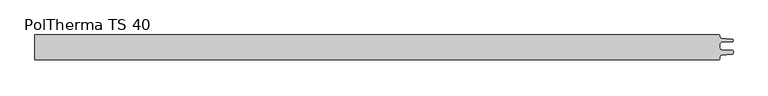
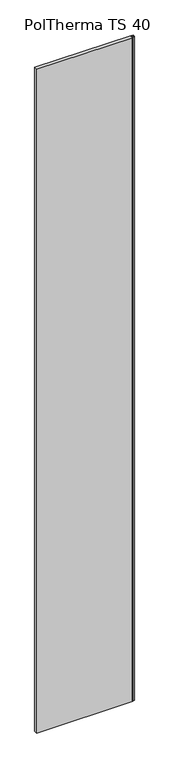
"""IFC4 building model written with IfcOpenShell, lengths in millimetres: plate geometry, Europanels_Poltherma TS_Vt : PolTherma TS 40."""

import ifcopenshell
import ifcopenshell.guid

model = None  # the IFC model being written
_history = None  # IfcOwnerHistory: only IFC2X3 demands one
_inside = {}  # id of a spatial element -> (the spatial element, [elements in it])
_under = {}  # id of a project, library or spatial element -> (it, [spatial elements below it])
_declared = {}  # id of a project -> (the project, [libraries it declares])
_typed = {}  # id of a type object -> (the type object, [elements of that type])
_made_of = {}  # id of a material, layer set ... -> (it, [elements and type objects made of it])


def new_model(schema):
    """Start an empty IFC model of exactly this schema.

    Asked for "IFC4X3", IfcOpenShell would pick the latest addendum, in which some entities
    have other attributes; the version numbers below select the first issue.
    IFC2X3 requires an IfcOwnerHistory on every rooted entity: one is made here for all.
    """
    global model, _history
    if schema == "IFC4X3":
        model = ifcopenshell.file(schema_version=(4, 3, 0, 0))
    else:
        model = ifcopenshell.file(schema=schema)
    _inside.clear()
    _under.clear()
    _declared.clear()
    _typed.clear()
    _made_of.clear()
    _history = None
    if model.schema == "IFC2X3":
        org = make("IfcOrganization", Name="unknown")
        user = make(
            "IfcPersonAndOrganization",
            ThePerson=make("IfcPerson", FamilyName="unknown"),
            TheOrganization=org,
        )
        app = make(
            "IfcApplication",
            ApplicationDeveloper=org,
            Version="unknown",
            ApplicationFullName="unknown",
            ApplicationIdentifier="unknown",
        )
        _history = make(
            "IfcOwnerHistory",
            OwningUser=user,
            OwningApplication=app,
            ChangeAction="ADDED",
            CreationDate=0,
        )
    return model


def make(cls, **values):
    """One entity of the class cls with the attributes given. An attribute that is None is left unset."""
    return model.create_entity(
        cls, **{name: value for name, value in values.items() if value is not None}
    )


def rooted(cls, **values):
    """An entity with a GlobalId (a new one), such as an element, a storey or a relation."""
    return make(cls, GlobalId=ifcopenshell.guid.new(), OwnerHistory=_history, **values)


def si_unit(unit_type, name, prefix=None):
    """IfcSIUnit, for example si_unit("LENGTHUNIT", "METRE", prefix="MILLI")."""
    return make("IfcSIUnit", UnitType=unit_type, Prefix=prefix, Name=name)


def assignment(units):
    """IfcUnitAssignment: the units of a project."""
    return None if units is None else make("IfcUnitAssignment", Units=units)


def point(xyz):
    """IfcCartesianPoint."""
    return None if xyz is None else make("IfcCartesianPoint", Coordinates=xyz)


def direction(xyz):
    """IfcDirection."""
    return None if xyz is None else make("IfcDirection", DirectionRatios=xyz)


def frame(location, z_axis=None, x_axis=None):
    """IfcAxis2Placement3D, a coordinate frame: its origin and axes. An axis left out is left unset."""
    return make(
        "IfcAxis2Placement3D",
        Location=point(location),
        Axis=direction(z_axis),
        RefDirection=direction(x_axis),
    )


def frame_2d(location, x_axis=None):
    """IfcAxis2Placement2D, a coordinate frame in the plane: its origin and x axis."""
    return make(
        "IfcAxis2Placement2D", Location=point(location), RefDirection=direction(x_axis)
    )


def origin():
    """The frame at (0, 0, 0) with its axes left unset."""
    return frame((0.0, 0.0, 0.0))


def origin_with_axes():
    """The frame at (0, 0, 0) with the z axis (0, 0, 1) and the x axis (1, 0, 0) written out."""
    return frame((0.0, 0.0, 0.0), z_axis=(0.0, 0.0, 1.0), x_axis=(1.0, 0.0, 0.0))


def place(relative_to, where):
    """IfcLocalPlacement: puts the frame where relative to a parent placement (None: the world)."""
    return make(
        "IfcLocalPlacement", PlacementRelTo=relative_to, RelativePlacement=where
    )


def context(
    kind, dimensions, precision=None, world=None, true_north=None, identifier=None
):
    """IfcGeometricRepresentationContext, for example the 3D "Model" context."""
    return make(
        "IfcGeometricRepresentationContext",
        ContextIdentifier=identifier,
        ContextType=kind,
        CoordinateSpaceDimension=dimensions,
        Precision=precision,
        WorldCoordinateSystem=world,
        TrueNorth=true_north,
    )


def project(units=None, contexts=None):
    """IfcProject with its units and contexts."""
    return rooted(
        "IfcProject",
        Name="project",
        RepresentationContexts=contexts,
        UnitsInContext=assignment(units),
    )


def spatial(cls, under=None, at=None, **own):
    """A site, building, storey or space (cls), placed at a placement, below another one or the project."""
    s = rooted(cls, ObjectPlacement=at, **own)
    if under is not None:
        _under.setdefault(under.id(), (under, []))[1].append(s)
    return s


def polyline(points):
    """IfcPolyline through the points."""
    return make("IfcPolyline", Points=[point(p) for p in points])


def circle_curve(where, radius):
    """IfcCircle in the frame where."""
    return make("IfcCircle", Position=where, Radius=radius)


def trimmed(basis, trim1, trim2, sense, master):
    """IfcTrimmedCurve: the piece of a basis curve between two trims."""
    return make(
        "IfcTrimmedCurve",
        BasisCurve=basis,
        Trim1=trim1,
        Trim2=trim2,
        SenseAgreement=sense,
        MasterRepresentation=master,
    )


def segment(curve, same_sense, transition):
    """IfcCompositeCurveSegment."""
    return make(
        "IfcCompositeCurveSegment",
        Transition=transition,
        SameSense=same_sense,
        ParentCurve=curve,
    )


def composite_curve(segments, self_intersect=None):
    """IfcCompositeCurve: segments joined end to end."""
    return make("IfcCompositeCurve", Segments=segments, SelfIntersect=self_intersect)


def outline(outer, holes=None, kind="AREA"):
    """IfcArbitraryClosedProfileDef: a profile drawn as a closed curve; with holes, ...WithVoids."""
    if holes is None:
        return make("IfcArbitraryClosedProfileDef", ProfileType=kind, OuterCurve=outer)
    return make(
        "IfcArbitraryProfileDefWithVoids",
        ProfileType=kind,
        OuterCurve=outer,
        InnerCurves=holes,
    )


def extrude(swept, where, along, depth):
    """IfcExtrudedAreaSolid: the profile swept, set in the frame where, extruded along a direction by depth."""
    return make(
        "IfcExtrudedAreaSolid",
        SweptArea=swept,
        Position=where,
        ExtrudedDirection=direction(along),
        Depth=depth,
    )


def shape(context_of_items, identifier, shape_type, items):
    """IfcShapeRepresentation: the items that make up one representation, for example the "Body"."""
    return make(
        "IfcShapeRepresentation",
        ContextOfItems=context_of_items,
        RepresentationIdentifier=identifier,
        RepresentationType=shape_type,
        Items=items,
    )


def source(mapping_origin, context_of_items, identifier, shape_type, items):
    """IfcRepresentationMap: a shape defined once, which mapped items show again and again."""
    return make(
        "IfcRepresentationMap",
        MappingOrigin=mapping_origin,
        MappedRepresentation=shape(context_of_items, identifier, shape_type, items),
    )


def transform(
    local_origin,
    x_axis=None,
    y_axis=None,
    z_axis=None,
    scale=None,
    scale2=None,
    scale3=None,
    uniform=True,
):
    """IfcCartesianTransformationOperator3D, or its non-uniform kind. x_axis, y_axis, z_axis: its Axis1, 2, 3."""
    if uniform:
        return make(
            "IfcCartesianTransformationOperator3D",
            Axis1=direction(x_axis),
            Axis2=direction(y_axis),
            LocalOrigin=point(local_origin),
            Scale=scale,
            Axis3=direction(z_axis),
        )
    return make(
        "IfcCartesianTransformationOperator3DnonUniform",
        Axis1=direction(x_axis),
        Axis2=direction(y_axis),
        LocalOrigin=point(local_origin),
        Scale=scale,
        Axis3=direction(z_axis),
        Scale2=scale2,
        Scale3=scale3,
    )


def mapped(mapping_source, mapping_target):
    """IfcMappedItem: shows the shape of a source again, moved by a transform."""
    return make(
        "IfcMappedItem", MappingSource=mapping_source, MappingTarget=mapping_target
    )


def made_of(thing, what):
    """Note that an element or type object is made of a material, layer set ...; save() writes the relation."""
    if what is not None:
        _made_of.setdefault(what.id(), (what, []))[1].append(thing)
    return thing


def element(
    cls,
    number,
    at=None,
    inside=None,
    cuts=None,
    type_object=None,
    material=None,
    context=None,
    identifier="Body",
    shape_type=None,
    held_by="IfcProductDefinitionShape",
    body=None,
    shapes=None,
    **own,
):
    """One element of the class cls, such as IfcWall. Its Tag is "e" and its number.

    at: its placement. inside: the storey or other place that contains it. cuts: it is an
    opening in that element (IfcRelVoidsElement). A single representation is given by context,
    identifier, shape_type and body (its items); several are given by shapes. held_by: the class
    of the entity that holds the representations. save() writes the other relations.
    """
    e = rooted(cls, Tag="e%d" % number, ObjectPlacement=at, **own)
    if body is not None:
        shapes = [shape(context, identifier, shape_type, body)]
    if shapes is not None:
        e.Representation = make(held_by, Representations=shapes)
    if inside is not None:
        _inside.setdefault(inside.id(), (inside, []))[1].append(e)
    if cuts is not None:
        rooted(
            "IfcRelVoidsElement", RelatingBuildingElement=cuts, RelatedOpeningElement=e
        )
    if type_object is not None:
        _typed.setdefault(type_object.id(), (type_object, []))[1].append(e)
    return made_of(e, material)


def aggregate(whole, parts):
    """IfcRelAggregates: a whole, such as a stair, and the parts it consists of."""
    return rooted("IfcRelAggregates", RelatingObject=whole, RelatedObjects=parts)


def save(model, path):
    """Write the relations noted so far, then the file.

    IfcRelAggregates (storeys below a building ...), IfcRelContainedInSpatialStructure (elements
    in a storey), IfcRelDefinesByType, IfcRelAssociatesMaterial and IfcRelDeclares: one each for
    every whole, place, type object, material and project.
    """
    for whole, parts in _under.values():
        aggregate(whole, parts)
    for where, things in _inside.values():
        rooted(
            "IfcRelContainedInSpatialStructure",
            RelatedElements=things,
            RelatingStructure=where,
        )
    for kind, things in _typed.values():
        rooted("IfcRelDefinesByType", RelatedObjects=things, RelatingType=kind)
    for what, things in _made_of.values():
        rooted("IfcRelAssociatesMaterial", RelatedObjects=things, RelatingMaterial=what)
    for by, libraries in _declared.values():
        rooted("IfcRelDeclares", RelatingContext=by, RelatedDefinitions=libraries)
    model.write(path)


def poltherma_ts_40_c34f58fd(model_context):
    return source(origin(), model_context, "Body", "SweptSolid", [
        extrude(outline(composite_curve([segment(polyline([(546.5011047, -20.0), (-550.0, -20.0), (-550.0, 20.0), (546.5011047, 20.0)]), True, "CONTINUOUS"), segment(trimmed(circle_curve(frame_2d((546.5011047, 18.0)), 2.0), [point((546.5011047, 20.0))], [point((548.5011047, 18.0))], False, "CARTESIAN"), True, "CONTINUOUS"), segment(polyline([(548.5011047, 18.0), (548.5011047, 16.2557869)]), True, "CONTINUOUS"), segment(trimmed(circle_curve(frame_2d((550.5011047, 16.2557869)), 2.0), [point((548.5011047, 16.2557869))], [point((550.3765791, 14.2596673))], True, "CARTESIAN"), True, "CONTINUOUS"), segment(polyline([(550.3765791, 14.2596673), (567.4253644, 13.1960991)]), True, "CONTINUOUS"), segment(trimmed(circle_curve(frame_2d((567.289593, 11.0197097)), 2.1806202), [point((567.4253644, 13.1960991))], [point((567.3831997, 8.8410996))], False, "CARTESIAN"), True, "CONTINUOUS"), segment(polyline([(567.3831997, 8.8410996), (550.4152514, 8.1120505)]), True, "CONTINUOUS"), segment(trimmed(circle_curve(frame_2d((550.5011047, 6.113894)), 2.0), [point((550.4152514, 8.1120505))], [point((548.5011047, 6.113894))], True, "CARTESIAN"), True, "CONTINUOUS"), segment(polyline([(548.5011047, 6.113894), (548.5011047, -1.9117672)]), True, "CONTINUOUS"), segment(trimmed(circle_curve(frame_2d((550.3011047, -1.9117672)), 1.8), [point((548.5011047, -1.9117672))], [point((550.2244834, -3.7101357))], True, "CARTESIAN"), True, "CONTINUOUS"), segment(polyline([(550.2244834, -3.7101357), (567.5862394, -4.4498501)]), True, "CONTINUOUS"), segment(trimmed(circle_curve(frame_2d((567.5011047, -6.4480373)), 2.0), [point((567.5862394, -4.4498501))], [point((569.5011047, -6.4480373))], False, "CARTESIAN"), True, "CONTINUOUS"), segment(polyline([(569.5011047, -6.4480373), (569.5011047, -9.1874198)]), True, "CONTINUOUS"), segment(trimmed(circle_curve(frame_2d((567.5011047, -9.1874198)), 2.0), [point((569.5011047, -9.1874198))], [point((567.624345, -11.1836192))], False, "CARTESIAN"), True, "CONTINUOUS"), segment(polyline([(567.624345, -11.1836192), (550.3778643, -12.2483736)]), True, "CONTINUOUS"), segment(trimmed(circle_curve(frame_2d((550.5011047, -14.244573)), 2.0), [point((550.3778643, -12.2483736))], [point((548.5011047, -14.244573))], True, "CARTESIAN"), True, "CONTINUOUS"), segment(polyline([(548.5011047, -14.244573), (548.5011047, -18.0)]), True, "CONTINUOUS"), segment(trimmed(circle_curve(frame_2d((546.5011047, -18.0)), 2.0), [point((548.5011047, -18.0))], [point((546.5011047, -20.0))], False, "CARTESIAN"), True, "CONTINUOUS")], self_intersect=False)), origin_with_axes(), (0.0, 0.0, 1.0), 8000.0),
    ])


if __name__ == "__main__":
    model = new_model("IFC4")
    model_context = context("Model", 3, world=origin())
    ifc_project = project(units=[si_unit("LENGTHUNIT", "METRE", prefix="MILLI")], contexts=[model_context])
    site = spatial("IfcSite", under=ifc_project)
    building = spatial("IfcBuilding", under=site)
    placement = place(None, origin())
    poltherma_ts_40_shape = poltherma_ts_40_c34f58fd(model_context)
    element("IfcPlate", 1, ObjectType="Europanels_Poltherma TS_Vt : PolTherma TS 40", at=placement, inside=building, context=model_context, shape_type="MappedRepresentation", body=[
        mapped(poltherma_ts_40_shape, transform((0.0, 0.0, 0.0), x_axis=(1.0, 0.0, 0.0), y_axis=(0.0, 1.0, 0.0), z_axis=(0.0, 0.0, 1.0))),
    ])
    save(model, "model.ifc")
